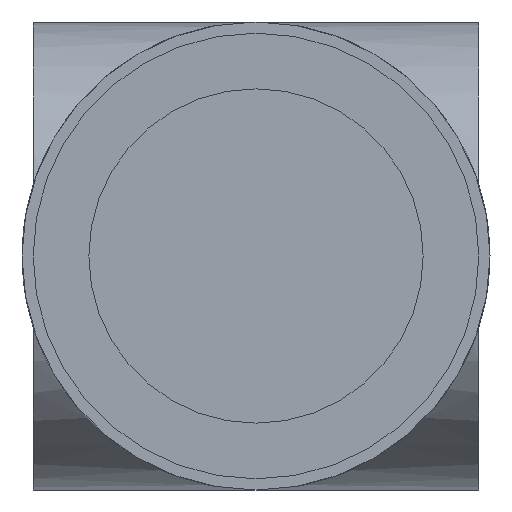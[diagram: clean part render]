
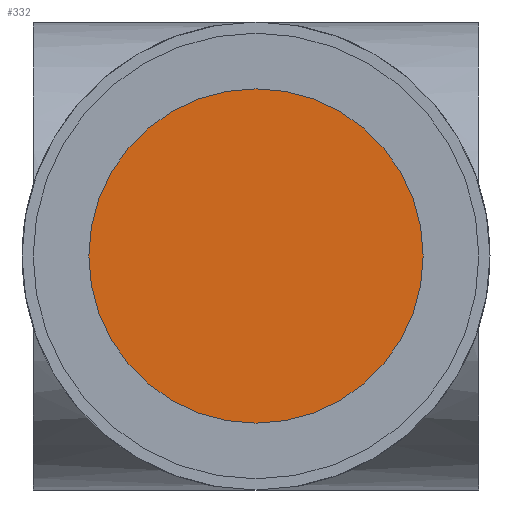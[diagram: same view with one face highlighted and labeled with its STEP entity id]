
A CAD part, front view. The second image highlights one B-rep face of the part: STEP entity #332.
In plain terms, the highlighted planar face has unit normal (0, -1, 0).
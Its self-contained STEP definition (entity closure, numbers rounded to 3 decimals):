
#10 = CARTESIAN_POINT ( 'NONE',  ( 0., -50., 0. ) ) ;
#19 = PLANE ( 'NONE',  #537 ) ;
#20 = DIRECTION ( 'NONE',  ( 0., 1., 0. ) ) ;
#21 = DIRECTION ( 'NONE',  ( 0., 0., 1. ) ) ;
#176 = AXIS2_PLACEMENT_3D ( 'NONE', #311, #206, #218 ) ;
#206 = DIRECTION ( 'NONE',  ( 0., -1., 0. ) ) ;
#218 = DIRECTION ( 'NONE',  ( 0., 0., -1. ) ) ;
#238 = VERTEX_POINT ( 'NONE', #362 ) ;
#249 = AXIS2_PLACEMENT_3D ( 'NONE', #277, #280, #282 ) ;
#277 = CARTESIAN_POINT ( 'NONE',  ( 0., -50., 0. ) ) ;
#280 = DIRECTION ( 'NONE',  ( 0., -1., 0. ) ) ;
#282 = DIRECTION ( 'NONE',  ( 0., 0., -1. ) ) ;
#311 = CARTESIAN_POINT ( 'NONE',  ( 0., -50., 0. ) ) ;
#332 = ADVANCED_FACE ( 'NONE', ( #685 ), #19, .F. ) ;
#362 = CARTESIAN_POINT ( 'NONE',  ( 0., -50., 15. ) ) ;
#421 = ORIENTED_EDGE ( 'NONE', *, *, #543, .T. ) ;
#507 = ORIENTED_EDGE ( 'NONE', *, *, #529, .T. ) ;
#529 = EDGE_CURVE ( 'NONE', #238, #686, #645, .T. ) ;
#537 = AXIS2_PLACEMENT_3D ( 'NONE', #10, #20, #21 ) ;
#543 = EDGE_CURVE ( 'NONE', #686, #238, #587, .T. ) ;
#545 = CARTESIAN_POINT ( 'NONE',  ( 0., -50., -15. ) ) ;
#587 = CIRCLE ( 'NONE', #249, 15. ) ;
#645 = CIRCLE ( 'NONE', #176, 15. ) ;
#679 = EDGE_LOOP ( 'NONE', ( #507, #421 ) ) ;
#685 = FACE_OUTER_BOUND ( 'NONE', #679, .T. ) ;
#686 = VERTEX_POINT ( 'NONE', #545 ) ;
